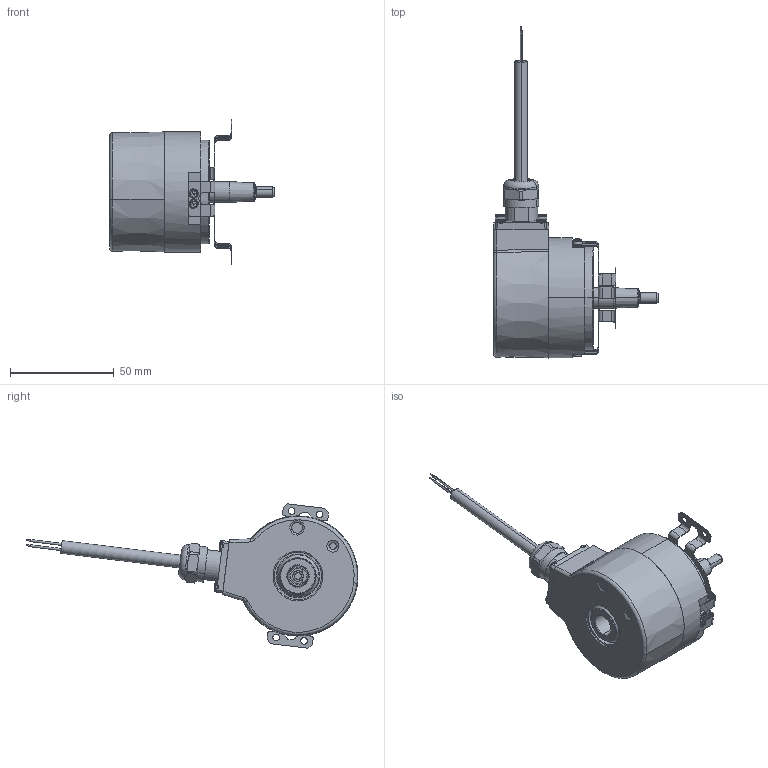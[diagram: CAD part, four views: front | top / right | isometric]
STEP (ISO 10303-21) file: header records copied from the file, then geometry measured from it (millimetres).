
FILE_DESCRIPTION (( 'STEP AP214' ), '1' );
FILE_NAME ('5834SIL.BKX2.XXXX.STEP', '2010-11-18T13:17:11', ( 'admin' ), ( 'Fritz Kübler GmbH' ), 'SwSTEP 2.0', 'SolidWorks 2009', '' );
FILE_SCHEMA (( 'AUTOMOTIVE_DESIGN' ));
Length unit declared in the file: millimetre
Products named in the file (1): 5834SIL.BKX2.XXXX
Bounding box: 79.5 x 160.21 x 69.69 mm (x, y, z)
Surface area: 27754.1 mm2 (no closed solid volume)
Topology: 0 solids, 22 shells, 452 faces, 1221 edges, 788 vertices
Faces by surface type: plane 216, cylinder 133, cone 50, torus 38, sphere 8, bspline 7
Entity records: 20298 total; most frequent: CARTESIAN_POINT 3697, DIRECTION 2614, ORIENTED_EDGE 2196, EDGE_CURVE 1221, AXIS2_PLACEMENT_3D 1003, VERTEX_POINT 788, VECTOR 608, LINE 608
